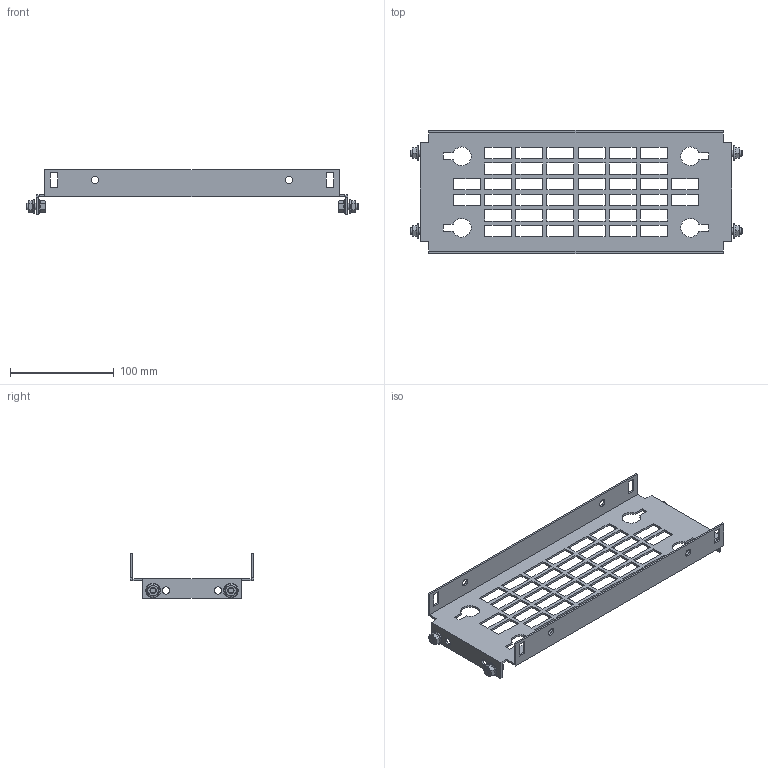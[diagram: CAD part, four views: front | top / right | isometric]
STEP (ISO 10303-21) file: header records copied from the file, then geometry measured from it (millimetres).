
FILE_DESCRIPTION(('Open CASCADE Model'),'2;1');
FILE_NAME('Open CASCADE Shape Model','2025-02-19T16:48:03',('Author'),( 'Open CASCADE'),'Open CASCADE STEP processor 7.8','Open CASCADE 7.8' ,'Unknown');
FILE_SCHEMA(('AUTOMOTIVE_DESIGN { 1 0 10303 214 1 1 1 1 }'));
Length unit declared in the file: millimetre
Products named in the file (4): Compound1; Solid1; Solid2; Solid3
Assembly tree (9 placements, depth 2):
  Compound1
    Solid1
    Solid2  x4
    Solid3  x4
Bounding box: 320 x 119 x 43 mm (x, y, z)
Volume: 83174.2 mm3; surface area: 91737.8 mm2
Topology: 9 solids, 9 shells, 450 faces, 1178 edges, 750 vertices
Faces by surface type: plane 294, cone 68, bspline 48, cylinder 28, torus 12
Full cylindrical faces by diameter (mm): 5 x4, 6 x8, 7 x12
Entity records: 10144 total; most frequent: CARTESIAN_POINT 2287, ORIENTED_EDGE 1678, DIRECTION 1408, EDGE_CURVE 839, LINE 688, VECTOR 688, VERTEX_POINT 552, FACE_BOUND 417
